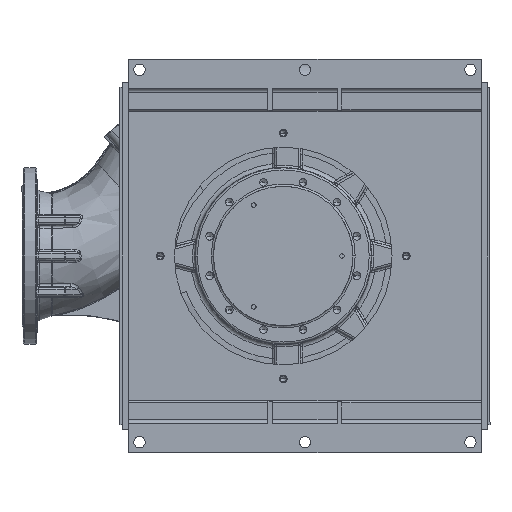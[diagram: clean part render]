
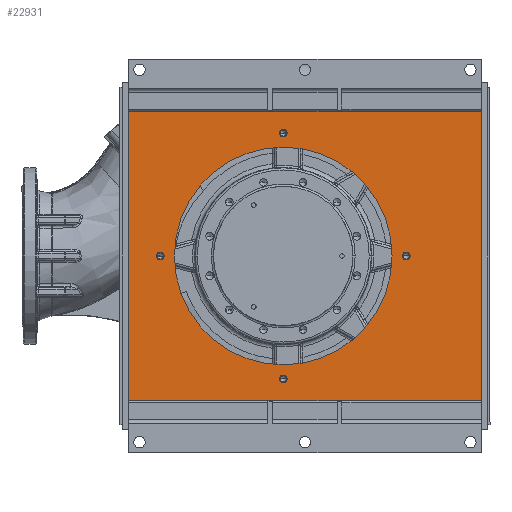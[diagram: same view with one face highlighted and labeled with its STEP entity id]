
A CAD part, front view. The second image highlights one B-rep face of the part: STEP entity #22931.
In plain terms, the highlighted planar face has unit normal (0, -1, 0).
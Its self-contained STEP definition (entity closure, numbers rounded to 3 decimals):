
#639 = DIRECTION ( 'NONE',  ( -1., 0., 0. ) ) ;
#871 = PLANE ( 'NONE',  #17105 ) ;
#887 = FACE_OUTER_BOUND ( 'NONE', #64468, .T. ) ;
#3004 = CARTESIAN_POINT ( 'NONE',  ( 317.5, 23., 0. ) ) ;
#3824 = VERTEX_POINT ( 'NONE', #145960 ) ;
#4022 = VERTEX_POINT ( 'NONE', #4628 ) ;
#4336 = FACE_BOUND ( 'NONE', #39818, .T. ) ;
#4628 = CARTESIAN_POINT ( 'NONE',  ( 891.5, 23., 0. ) ) ;
#7501 = EDGE_CURVE ( 'NONE', #25241, #34490, #26010, .T. ) ;
#7907 = CARTESIAN_POINT ( 'NONE',  ( 600., 23., 282.5 ) ) ;
#13082 = VERTEX_POINT ( 'NONE', #69157 ) ;
#14358 = DIRECTION ( 'NONE',  ( -1., 0., 0. ) ) ;
#14700 = CARTESIAN_POINT ( 'NONE',  ( 600., 23., -282.5 ) ) ;
#14991 = ORIENTED_EDGE ( 'NONE', *, *, #122085, .T. ) ;
#15978 = DIRECTION ( 'NONE',  ( -1., 0., 0. ) ) ;
#17105 = AXIS2_PLACEMENT_3D ( 'NONE', #124951, #57460, #136167 ) ;
#18126 = ORIENTED_EDGE ( 'NONE', *, *, #72079, .T. ) ;
#18600 = CIRCLE ( 'NONE', #41839, 9. ) ;
#19229 = DIRECTION ( 'NONE',  ( -1., 0., 0. ) ) ;
#22285 = ORIENTED_EDGE ( 'NONE', *, *, #106641, .T. ) ;
#22543 = VECTOR ( 'NONE', #72609, 1000. ) ;
#22931 = ADVANCED_FACE ( 'NONE', ( #30723, #4336, #120628, #60699, #90769, #887 ), #871, .F. ) ;
#23667 = ORIENTED_EDGE ( 'NONE', *, *, #141756, .T. ) ;
#24470 = EDGE_CURVE ( 'NONE', #67604, #4022, #56841, .T. ) ;
#25241 = VERTEX_POINT ( 'NONE', #118567 ) ;
#25429 = LINE ( 'NONE', #38997, #51856 ) ;
#25971 = DIRECTION ( 'NONE',  ( -1., 0., 0. ) ) ;
#26010 = LINE ( 'NONE', #35738, #22543 ) ;
#26642 = EDGE_CURVE ( 'NONE', #97346, #13082, #79043, .T. ) ;
#26724 = DIRECTION ( 'NONE',  ( 0., 1., 0. ) ) ;
#28020 = CIRCLE ( 'NONE', #134103, 9. ) ;
#28678 = ORIENTED_EDGE ( 'NONE', *, *, #26642, .T. ) ;
#29593 = ORIENTED_EDGE ( 'NONE', *, *, #78257, .T. ) ;
#30188 = CARTESIAN_POINT ( 'NONE',  ( 882.5, 23., 0. ) ) ;
#30723 = FACE_BOUND ( 'NONE', #92668, .T. ) ;
#31137 = CARTESIAN_POINT ( 'NONE',  ( 600., 23., 282.5 ) ) ;
#31988 = ORIENTED_EDGE ( 'NONE', *, *, #71214, .T. ) ;
#32563 = ORIENTED_EDGE ( 'NONE', *, *, #63168, .T. ) ;
#33618 = CARTESIAN_POINT ( 'NONE',  ( 600., 23., 0. ) ) ;
#34490 = VERTEX_POINT ( 'NONE', #40806 ) ;
#35738 = CARTESIAN_POINT ( 'NONE',  ( 245., 23., -332.5 ) ) ;
#36238 = ORIENTED_EDGE ( 'NONE', *, *, #7501, .T. ) ;
#37049 = EDGE_CURVE ( 'NONE', #70421, #34490, #25429, .T. ) ;
#38997 = CARTESIAN_POINT ( 'NONE',  ( 1055., 23., -398. ) ) ;
#39818 = EDGE_LOOP ( 'NONE', ( #28678, #98097 ) ) ;
#40806 = CARTESIAN_POINT ( 'NONE',  ( 1055., 23., -332.5 ) ) ;
#41133 = EDGE_CURVE ( 'NONE', #47560, #25241, #144871, .T. ) ;
#41532 = DIRECTION ( 'NONE',  ( -1., 0., 0. ) ) ;
#41685 = CARTESIAN_POINT ( 'NONE',  ( 600., 23., 0. ) ) ;
#41839 = AXIS2_PLACEMENT_3D ( 'NONE', #135457, #68096, #639 ) ;
#42494 = DIRECTION ( 'NONE',  ( -1., 0., 0. ) ) ;
#44999 = DIRECTION ( 'NONE',  ( -1., 0., 0. ) ) ;
#46240 = AXIS2_PLACEMENT_3D ( 'NONE', #33618, #112455, #44999 ) ;
#47560 = VERTEX_POINT ( 'NONE', #89595 ) ;
#51856 = VECTOR ( 'NONE', #129141, 1000. ) ;
#52594 = VERTEX_POINT ( 'NONE', #100715 ) ;
#53017 = DIRECTION ( 'NONE',  ( -1., 0., 0. ) ) ;
#54865 = CARTESIAN_POINT ( 'NONE',  ( 600., 23., -282.5 ) ) ;
#55089 = VECTOR ( 'NONE', #62556, 1000. ) ;
#56092 = AXIS2_PLACEMENT_3D ( 'NONE', #54865, #133577, #66195 ) ;
#56841 = CIRCLE ( 'NONE', #59224, 9. ) ;
#57293 = LINE ( 'NONE', #106073, #143489 ) ;
#57460 = DIRECTION ( 'NONE',  ( 0., 1., 0. ) ) ;
#59224 = AXIS2_PLACEMENT_3D ( 'NONE', #94252, #26724, #105564 ) ;
#59529 = ORIENTED_EDGE ( 'NONE', *, *, #100980, .T. ) ;
#59749 = AXIS2_PLACEMENT_3D ( 'NONE', #31137, #109964, #42494 ) ;
#60568 = EDGE_LOOP ( 'NONE', ( #31988, #23667 ) ) ;
#60699 = FACE_BOUND ( 'NONE', #73520, .T. ) ;
#62411 = CIRCLE ( 'NONE', #79450, 250. ) ;
#62556 = DIRECTION ( 'NONE',  ( 0., 0., -1. ) ) ;
#63168 = EDGE_CURVE ( 'NONE', #110827, #138549, #137598, .T. ) ;
#63946 = CARTESIAN_POINT ( 'NONE',  ( 591., 23., -282.5 ) ) ;
#64468 = EDGE_LOOP ( 'NONE', ( #142861, #18126, #88828, #36238 ) ) ;
#66195 = DIRECTION ( 'NONE',  ( -1., 0., 0. ) ) ;
#67604 = VERTEX_POINT ( 'NONE', #70485 ) ;
#68096 = DIRECTION ( 'NONE',  ( 0., 1., 0. ) ) ;
#69157 = CARTESIAN_POINT ( 'NONE',  ( 326.5, 23., 0. ) ) ;
#70421 = VERTEX_POINT ( 'NONE', #120433 ) ;
#70485 = CARTESIAN_POINT ( 'NONE',  ( 873.5, 23., 0. ) ) ;
#70607 = CARTESIAN_POINT ( 'NONE',  ( 350., 23., 0. ) ) ;
#71214 = EDGE_CURVE ( 'NONE', #3824, #52594, #117403, .T. ) ;
#71685 = EDGE_LOOP ( 'NONE', ( #32563, #29593 ) ) ;
#72079 = EDGE_CURVE ( 'NONE', #70421, #47560, #57293, .T. ) ;
#72609 = DIRECTION ( 'NONE',  ( 1., 0., 0. ) ) ;
#73520 = EDGE_LOOP ( 'NONE', ( #121548, #14991 ) ) ;
#78257 = EDGE_CURVE ( 'NONE', #138549, #110827, #62411, .T. ) ;
#79043 = CIRCLE ( 'NONE', #129305, 9. ) ;
#79450 = AXIS2_PLACEMENT_3D ( 'NONE', #41685, #120468, #53017 ) ;
#81808 = AXIS2_PLACEMENT_3D ( 'NONE', #14700, #93514, #25971 ) ;
#81821 = DIRECTION ( 'NONE',  ( 0., 1., 0. ) ) ;
#83865 = CIRCLE ( 'NONE', #56092, 9. ) ;
#85253 = CARTESIAN_POINT ( 'NONE',  ( 245., 23., -398. ) ) ;
#86715 = DIRECTION ( 'NONE',  ( 0., 1., 0. ) ) ;
#87644 = AXIS2_PLACEMENT_3D ( 'NONE', #7907, #86715, #19229 ) ;
#88828 = ORIENTED_EDGE ( 'NONE', *, *, #41133, .T. ) ;
#89595 = CARTESIAN_POINT ( 'NONE',  ( 245., 23., 332.5 ) ) ;
#90769 = FACE_BOUND ( 'NONE', #71685, .T. ) ;
#92668 = EDGE_LOOP ( 'NONE', ( #59529, #22285 ) ) ;
#93514 = DIRECTION ( 'NONE',  ( 0., 1., 0. ) ) ;
#94252 = CARTESIAN_POINT ( 'NONE',  ( 882.5, 23., 0. ) ) ;
#97346 = VERTEX_POINT ( 'NONE', #128875 ) ;
#98097 = ORIENTED_EDGE ( 'NONE', *, *, #130804, .T. ) ;
#100715 = CARTESIAN_POINT ( 'NONE',  ( 609., 23., 282.5 ) ) ;
#100980 = EDGE_CURVE ( 'NONE', #116544, #107154, #112212, .T. ) ;
#103283 = CIRCLE ( 'NONE', #87644, 9. ) ;
#105564 = DIRECTION ( 'NONE',  ( -1., 0., 0. ) ) ;
#106073 = CARTESIAN_POINT ( 'NONE',  ( 1055., 23., 332.5 ) ) ;
#106641 = EDGE_CURVE ( 'NONE', #107154, #116544, #83865, .T. ) ;
#107154 = VERTEX_POINT ( 'NONE', #129550 ) ;
#107162 = CARTESIAN_POINT ( 'NONE',  ( 850., 23., 0. ) ) ;
#109015 = DIRECTION ( 'NONE',  ( 0., 1., 0. ) ) ;
#109964 = DIRECTION ( 'NONE',  ( 0., 1., 0. ) ) ;
#110827 = VERTEX_POINT ( 'NONE', #70607 ) ;
#112212 = CIRCLE ( 'NONE', #81808, 9. ) ;
#112455 = DIRECTION ( 'NONE',  ( 0., 1., 0. ) ) ;
#116544 = VERTEX_POINT ( 'NONE', #63946 ) ;
#117403 = CIRCLE ( 'NONE', #59749, 9. ) ;
#118567 = CARTESIAN_POINT ( 'NONE',  ( 245., 23., -332.5 ) ) ;
#120433 = CARTESIAN_POINT ( 'NONE',  ( 1055., 23., 332.5 ) ) ;
#120468 = DIRECTION ( 'NONE',  ( 0., 1., 0. ) ) ;
#120628 = FACE_BOUND ( 'NONE', #60568, .T. ) ;
#121548 = ORIENTED_EDGE ( 'NONE', *, *, #24470, .T. ) ;
#122085 = EDGE_CURVE ( 'NONE', #4022, #67604, #28020, .T. ) ;
#124951 = CARTESIAN_POINT ( 'NONE',  ( 225., 23., -387.5 ) ) ;
#128875 = CARTESIAN_POINT ( 'NONE',  ( 308.5, 23., 0. ) ) ;
#129141 = DIRECTION ( 'NONE',  ( 0., 0., -1. ) ) ;
#129305 = AXIS2_PLACEMENT_3D ( 'NONE', #3004, #81821, #14358 ) ;
#129550 = CARTESIAN_POINT ( 'NONE',  ( 609., 23., -282.5 ) ) ;
#130804 = EDGE_CURVE ( 'NONE', #13082, #97346, #18600, .T. ) ;
#133577 = DIRECTION ( 'NONE',  ( 0., 1., 0. ) ) ;
#134103 = AXIS2_PLACEMENT_3D ( 'NONE', #30188, #109015, #41532 ) ;
#135457 = CARTESIAN_POINT ( 'NONE',  ( 317.5, 23., 0. ) ) ;
#136167 = DIRECTION ( 'NONE',  ( -1., 0., 0. ) ) ;
#137598 = CIRCLE ( 'NONE', #46240, 250. ) ;
#138549 = VERTEX_POINT ( 'NONE', #107162 ) ;
#141756 = EDGE_CURVE ( 'NONE', #52594, #3824, #103283, .T. ) ;
#142861 = ORIENTED_EDGE ( 'NONE', *, *, #37049, .F. ) ;
#143489 = VECTOR ( 'NONE', #15978, 1000. ) ;
#144871 = LINE ( 'NONE', #85253, #55089 ) ;
#145960 = CARTESIAN_POINT ( 'NONE',  ( 591., 23., 282.5 ) ) ;
